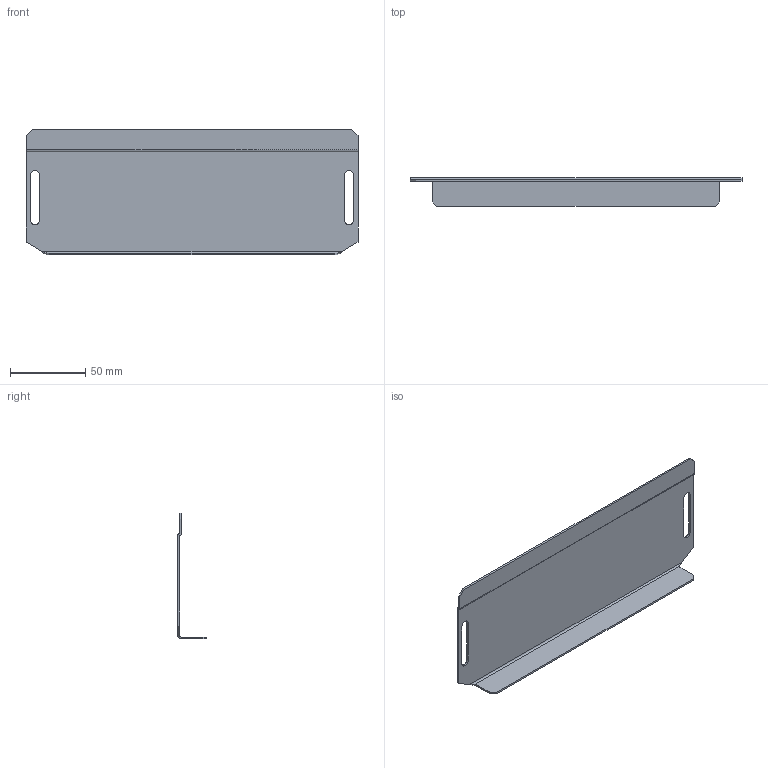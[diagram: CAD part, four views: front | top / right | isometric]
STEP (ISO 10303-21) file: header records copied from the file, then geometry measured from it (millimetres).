
FILE_DESCRIPTION (( 'STEP AP214' ), '1' );
FILE_NAME ('PKV 40 P Ïàíåëü ïîäâèæíàÿ.stp', '2021-05-24T10:01:17', ( '' ), ( '' ), 'SwSTEP 2.0', 'SolidWorks 2018', '' );
FILE_SCHEMA (( 'AUTOMOTIVE_DESIGN' ));
Length unit declared in the file: millimetre
Products named in the file (1): PKV 40 P Ïàíåëü ïîäâèæíàÿ
Bounding box: 220.5 x 19 x 83.6 mm (x, y, z)
Volume: 25525 mm3; surface area: 43478 mm2
Topology: 1 solids, 1 shells, 42 faces, 100 edges, 60 vertices
Faces by surface type: plane 28, cylinder 12, bspline 2
Entity records: 1286 total; most frequent: CARTESIAN_POINT 285, ORIENTED_EDGE 200, DIRECTION 194, EDGE_CURVE 100, LINE 72, VECTOR 72, AXIS2_PLACEMENT_3D 61, VERTEX_POINT 60
